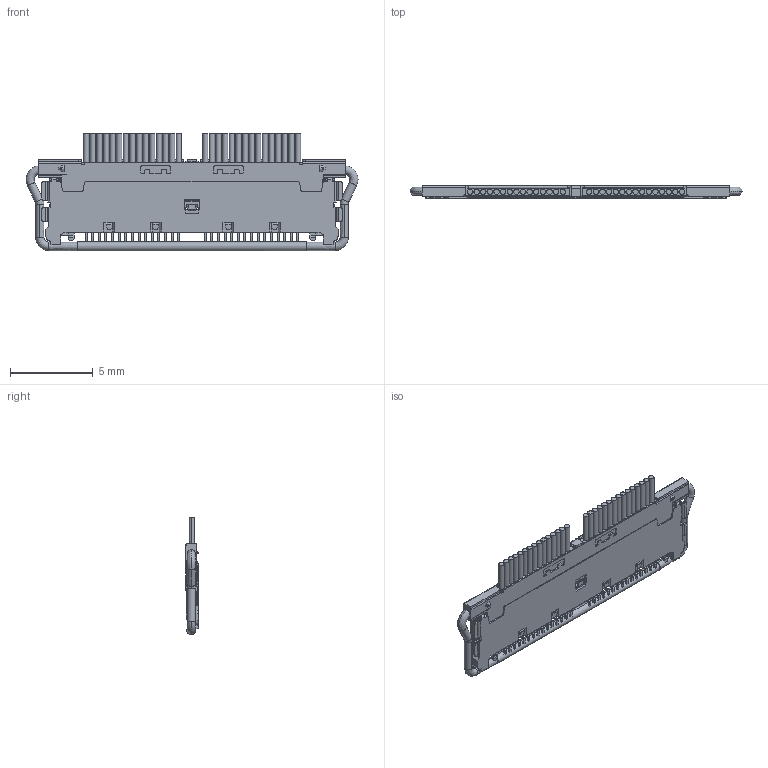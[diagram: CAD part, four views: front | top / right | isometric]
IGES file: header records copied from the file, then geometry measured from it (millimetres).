
Start section: SolidWorks IGES file using analytic representation for surfaces
Global section: file name: C:\Users\ieng2-009\Desktop\40P\30p\20728-030TxxxC+20729-030ExxxC MATING IGES R0 ALL.IGS; native system: SolidWorks 2017; preprocessor: SolidWorks 2017; author: ieng2-009; date: 180613.185404; units: millimetre
Bounding box: 20.05 x 0.73 x 7.11 mm (x, y, z)
Surface area: 331 mm2 (no closed solid volume)
Topology: 0 solids, 0 shells, 1432 faces, 10269 edges, 10269 vertices
Faces by surface type: bspline 940, revolution 492
